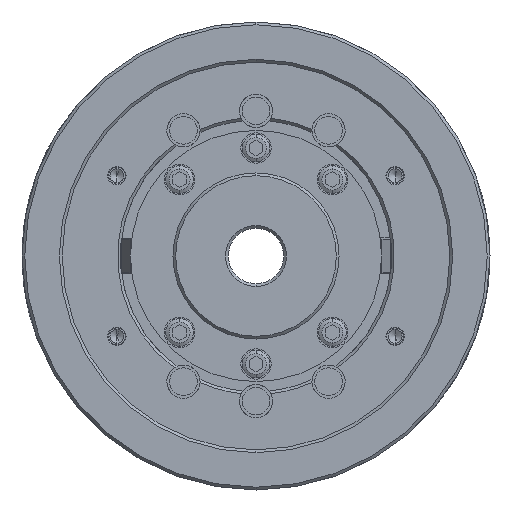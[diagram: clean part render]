
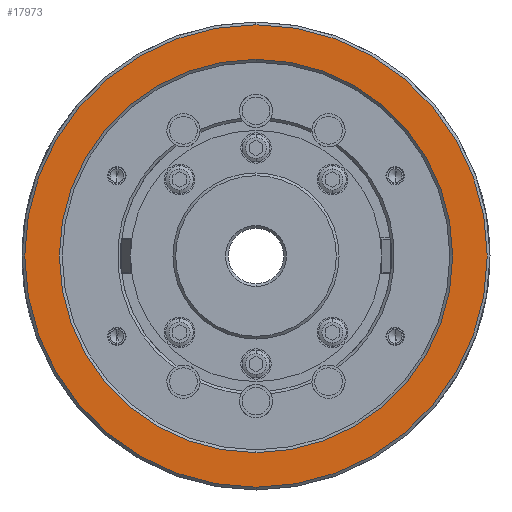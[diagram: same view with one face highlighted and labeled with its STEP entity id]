
A CAD part, left-side view. The second image highlights one B-rep face of the part: STEP entity #17973.
In plain terms, the highlighted planar face has unit normal (-1, 0, 0).
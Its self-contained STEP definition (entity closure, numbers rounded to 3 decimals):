
#786 = DIRECTION ( 'NONE',  ( 0., 0., 1. ) ) ;
#2974 = CARTESIAN_POINT ( 'NONE',  ( -81., 0., 0. ) ) ;
#8124 = DIRECTION ( 'NONE',  ( 0., 0., 1. ) ) ;
#10284 = CIRCLE ( 'NONE', #11404, 83.5 ) ;
#11404 = AXIS2_PLACEMENT_3D ( 'NONE', #2974, #38667, #8124 ) ;
#11857 = VERTEX_POINT ( 'NONE', #14071 ) ;
#11983 = ORIENTED_EDGE ( 'NONE', *, *, #58631, .T. ) ;
#12691 = ORIENTED_EDGE ( 'NONE', *, *, #33586, .T. ) ;
#14071 = CARTESIAN_POINT ( 'NONE',  ( -81., 0., 83.5 ) ) ;
#14503 = DIRECTION ( 'NONE',  ( 1., 0., 0. ) ) ;
#16199 = VERTEX_POINT ( 'NONE', #34651 ) ;
#16348 = CARTESIAN_POINT ( 'NONE',  ( -81., 0., -71. ) ) ;
#17973 = ADVANCED_FACE ( 'NONE', ( #24425, #39579 ), #61861, .T. ) ;
#18779 = CIRCLE ( 'NONE', #35794, 71. ) ;
#24425 = FACE_BOUND ( 'NONE', #43668, .T. ) ;
#24696 = AXIS2_PLACEMENT_3D ( 'NONE', #45045, #14503, #50210 ) ;
#25049 = CARTESIAN_POINT ( 'NONE',  ( -81., 0., 0. ) ) ;
#25950 = DIRECTION ( 'NONE',  ( -1., 0., 0. ) ) ;
#26399 = EDGE_LOOP ( 'NONE', ( #60969, #12691 ) ) ;
#29036 = ORIENTED_EDGE ( 'NONE', *, *, #35237, .T. ) ;
#30175 = DIRECTION ( 'NONE',  ( 0., 0., 1. ) ) ;
#31272 = VERTEX_POINT ( 'NONE', #16348 ) ;
#31363 = DIRECTION ( 'NONE',  ( -1., 0., 0. ) ) ;
#31737 = CIRCLE ( 'NONE', #36574, 83.5 ) ;
#33586 = EDGE_CURVE ( 'NONE', #11857, #16199, #31737, .T. ) ;
#34651 = CARTESIAN_POINT ( 'NONE',  ( -81., 0., -83.5 ) ) ;
#35237 = EDGE_CURVE ( 'NONE', #57570, #31272, #18779, .T. ) ;
#35794 = AXIS2_PLACEMENT_3D ( 'NONE', #25049, #60642, #30175 ) ;
#36296 = CARTESIAN_POINT ( 'NONE',  ( -81., 84.5, 0. ) ) ;
#36574 = AXIS2_PLACEMENT_3D ( 'NONE', #56480, #25950, #61559 ) ;
#38667 = DIRECTION ( 'NONE',  ( -1., 0., 0. ) ) ;
#39579 = FACE_OUTER_BOUND ( 'NONE', #26399, .T. ) ;
#43668 = EDGE_LOOP ( 'NONE', ( #29036, #11983 ) ) ;
#45045 = CARTESIAN_POINT ( 'NONE',  ( -81., 0., 0. ) ) ;
#50210 = DIRECTION ( 'NONE',  ( 0., 0., 1. ) ) ;
#50245 = EDGE_CURVE ( 'NONE', #16199, #11857, #10284, .T. ) ;
#53290 = CARTESIAN_POINT ( 'NONE',  ( -81., 0., 71. ) ) ;
#56480 = CARTESIAN_POINT ( 'NONE',  ( -81., 0., 0. ) ) ;
#57570 = VERTEX_POINT ( 'NONE', #53290 ) ;
#57688 = AXIS2_PLACEMENT_3D ( 'NONE', #36296, #31363, #786 ) ;
#58631 = EDGE_CURVE ( 'NONE', #31272, #57570, #60348, .T. ) ;
#60348 = CIRCLE ( 'NONE', #24696, 71. ) ;
#60642 = DIRECTION ( 'NONE',  ( 1., 0., 0. ) ) ;
#60969 = ORIENTED_EDGE ( 'NONE', *, *, #50245, .T. ) ;
#61559 = DIRECTION ( 'NONE',  ( 0., 0., 1. ) ) ;
#61861 = PLANE ( 'NONE',  #57688 ) ;
